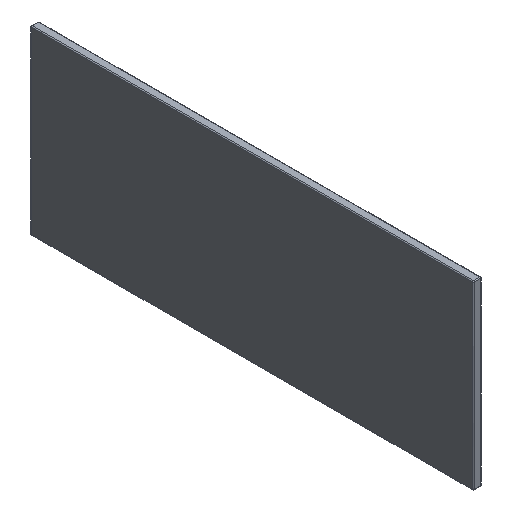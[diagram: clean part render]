
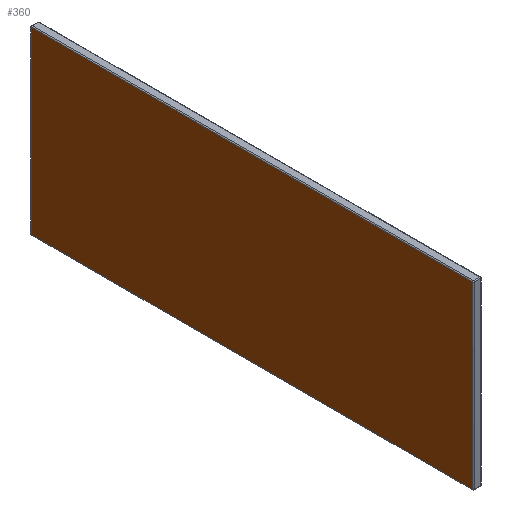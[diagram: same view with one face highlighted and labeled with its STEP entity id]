
A CAD part, isometric view. The second image highlights one B-rep face of the part: STEP entity #360.
In plain terms, the highlighted free-form (B-spline) face has degree [1, 1] with [2, 2] control points.
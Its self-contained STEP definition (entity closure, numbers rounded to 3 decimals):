
#10 = CARTESIAN_POINT ('', (-420., -732.6, 711.425));
#20 = VERTEX_POINT ('', #10);
#30 = CARTESIAN_POINT ('', (-420., -732.6, 265.425));
#40 = VERTEX_POINT ('', #30);
#50 = CARTESIAN_POINT ('', (-420., -732.6, 711.425));
#60 = CARTESIAN_POINT ('', (-420., -732.6, 265.425));
#70 = (
   BOUNDED_CURVE ()
   B_SPLINE_CURVE (1, (#50, #60), .UNSPECIFIED., .F., .U.)
   B_SPLINE_CURVE_WITH_KNOTS ((2, 2), (0., 446.), .UNSPECIFIED.)
   CURVE ()
   GEOMETRIC_REPRESENTATION_ITEM ()
   RATIONAL_B_SPLINE_CURVE ((1., 1.))
   REPRESENTATION_ITEM ('')
);
#80 = EDGE_CURVE ('', #20, #40, #70, .T.);
#90 = ORIENTED_EDGE ('', *, *, #80, .F.);
#100 = CARTESIAN_POINT ('', (-420., 363.4, 711.425));
#110 = VERTEX_POINT ('', #100);
#120 = CARTESIAN_POINT ('', (-420., -732.6, 711.425));
#130 = CARTESIAN_POINT ('', (-420., 363.4, 711.425));
#140 = (
   BOUNDED_CURVE ()
   B_SPLINE_CURVE (1, (#120, #130), .UNSPECIFIED., .F., .U.)
   B_SPLINE_CURVE_WITH_KNOTS ((2, 2), (0., 1096.), .UNSPECIFIED.)
   CURVE ()
   GEOMETRIC_REPRESENTATION_ITEM ()
   RATIONAL_B_SPLINE_CURVE ((1., 1.))
   REPRESENTATION_ITEM ('')
);
#150 = EDGE_CURVE ('', #20, #110, #140, .T.);
#160 = ORIENTED_EDGE ('', *, *, #150, .T.);
#170 = CARTESIAN_POINT ('', (-420., 363.4, 265.425));
#180 = VERTEX_POINT ('', #170);
#190 = CARTESIAN_POINT ('', (-420., 363.4, 265.425));
#200 = CARTESIAN_POINT ('', (-420., 363.4, 711.425));
#210 = (
   BOUNDED_CURVE ()
   B_SPLINE_CURVE (1, (#190, #200), .UNSPECIFIED., .F., .U.)
   B_SPLINE_CURVE_WITH_KNOTS ((2, 2), (0., 446.), .UNSPECIFIED.)
   CURVE ()
   GEOMETRIC_REPRESENTATION_ITEM ()
   RATIONAL_B_SPLINE_CURVE ((1., 1.))
   REPRESENTATION_ITEM ('')
);
#220 = EDGE_CURVE ('', #180, #110, #210, .T.);
#230 = ORIENTED_EDGE ('', *, *, #220, .F.);
#240 = CARTESIAN_POINT ('', (-420., -732.6, 265.425));
#250 = CARTESIAN_POINT ('', (-420., 363.4, 265.425));
#260 = (
   BOUNDED_CURVE ()
   B_SPLINE_CURVE (1, (#240, #250), .UNSPECIFIED., .F., .U.)
   B_SPLINE_CURVE_WITH_KNOTS ((2, 2), (0., 1096.), .UNSPECIFIED.)
   CURVE ()
   GEOMETRIC_REPRESENTATION_ITEM ()
   RATIONAL_B_SPLINE_CURVE ((1., 1.))
   REPRESENTATION_ITEM ('')
);
#270 = EDGE_CURVE ('', #40, #180, #260, .T.);
#280 = ORIENTED_EDGE ('', *, *, #270, .F.);
#290 = EDGE_LOOP ('', (#90, #160, #230, #280));
#300 = FACE_OUTER_BOUND ('', #290, .T.);
#310 = CARTESIAN_POINT ('', (-420., -1475.929, -660.511));
#320 = CARTESIAN_POINT ('', (-420., 1106.729, -660.511));
#330 = CARTESIAN_POINT ('', (-420., -1475.929, 1687.361));
#340 = CARTESIAN_POINT ('', (-420., 1106.729, 1687.361));
#350 = B_SPLINE_SURFACE_WITH_KNOTS ('', 1, 1, ((#310, #320), (#330, #340)), .UNSPECIFIED., .F., .F., .U., (2, 2), (2, 2), (0., 1.), (0., 1.), .UNSPECIFIED.);
#360 = ADVANCED_FACE ('', (#300), #350, .T.);
